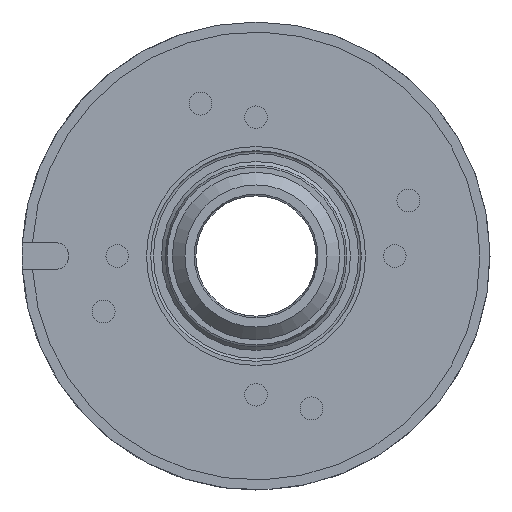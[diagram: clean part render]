
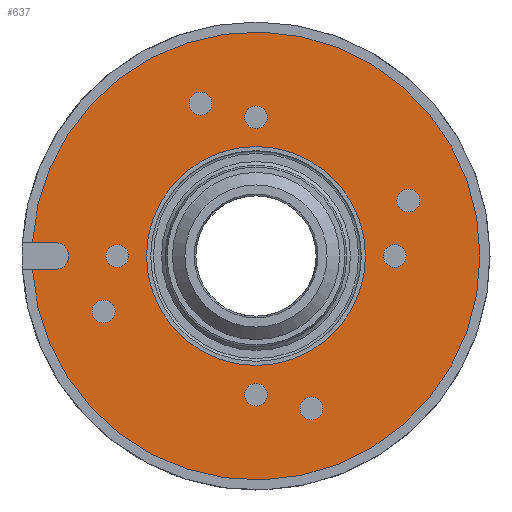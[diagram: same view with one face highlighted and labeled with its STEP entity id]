
A CAD part, left-side view. The second image highlights one B-rep face of the part: STEP entity #637.
In plain terms, the highlighted planar face has unit normal (-1, 0, 0).
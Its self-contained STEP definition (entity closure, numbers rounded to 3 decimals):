
#6 = AXIS2_PLACEMENT_3D ( 'NONE', #1297, #557, #997 ) ;
#10 = CIRCLE ( 'NONE', #1512, 3.4 ) ;
#11 = FACE_BOUND ( 'NONE', #1453, .T. ) ;
#14 = CARTESIAN_POINT ( 'NONE',  ( 0., 60., 0. ) ) ;
#23 = CARTESIAN_POINT ( 'NONE',  ( 0., -41.5, 0. ) ) ;
#39 = EDGE_LOOP ( 'NONE', ( #716 ) ) ;
#57 = CARTESIAN_POINT ( 'NONE',  ( 0., -45.575, 13.188 ) ) ;
#89 = DIRECTION ( 'NONE',  ( 0., -1., 0. ) ) ;
#109 = ORIENTED_EDGE ( 'NONE', *, *, #1296, .F. ) ;
#151 = EDGE_CURVE ( 'NONE', #593, #1372, #1218, .T. ) ;
#164 = FACE_BOUND ( 'NONE', #1796, .T. ) ;
#169 = CIRCLE ( 'NONE', #726, 3.4 ) ;
#187 = LINE ( 'NONE', #1273, #1756 ) ;
#213 = DIRECTION ( 'NONE',  ( 0., 0., -1. ) ) ;
#217 = DIRECTION ( 'NONE',  ( -1., 0., 0. ) ) ;
#290 = DIRECTION ( 'NONE',  ( -1., 0., 0. ) ) ;
#303 = AXIS2_PLACEMENT_3D ( 'NONE', #1871, #676, #1270 ) ;
#315 = FACE_BOUND ( 'NONE', #819, .T. ) ;
#331 = DIRECTION ( 'NONE',  ( 0., -1., 0. ) ) ;
#333 = CIRCLE ( 'NONE', #367, 4. ) ;
#340 = DIRECTION ( 'NONE',  ( 0., 0., 1. ) ) ;
#341 = DIRECTION ( 'NONE',  ( 0., 1., 0. ) ) ;
#367 = AXIS2_PLACEMENT_3D ( 'NONE', #14, #1408, #340 ) ;
#372 = CARTESIAN_POINT ( 'NONE',  ( 0., -13.188, -45.575 ) ) ;
#373 = EDGE_LOOP ( 'NONE', ( #851 ) ) ;
#382 = ORIENTED_EDGE ( 'NONE', *, *, #1398, .F. ) ;
#384 = DIRECTION ( 'NONE',  ( -1., 0., 0. ) ) ;
#393 = ORIENTED_EDGE ( 'NONE', *, *, #1727, .F. ) ;
#403 = DIRECTION ( 'NONE',  ( -1., 0., 0. ) ) ;
#405 = VERTEX_POINT ( 'NONE', #1458 ) ;
#485 = DIRECTION ( 'NONE',  ( 0., 0., -1. ) ) ;
#512 = VERTEX_POINT ( 'NONE', #1568 ) ;
#527 = CARTESIAN_POINT ( 'NONE',  ( 0., 0., -41.5 ) ) ;
#529 = CIRCLE ( 'NONE', #1155, 67. ) ;
#557 = DIRECTION ( 'NONE',  ( -1., 0., 0. ) ) ;
#593 = VERTEX_POINT ( 'NONE', #1061 ) ;
#605 = VERTEX_POINT ( 'NONE', #1373 ) ;
#622 = CARTESIAN_POINT ( 'NONE',  ( 0., 41.5, 3.4 ) ) ;
#630 = CIRCLE ( 'NONE', #1227, 3.4 ) ;
#631 = CIRCLE ( 'NONE', #1354, 3.4 ) ;
#636 = FACE_OUTER_BOUND ( 'NONE', #1033, .T. ) ;
#637 = ADVANCED_FACE ( 'NONE', ( #937, #800, #1674, #315, #928, #164, #781, #1385, #11, #636 ), #1442, .T. ) ;
#676 = DIRECTION ( 'NONE',  ( -1., 0., 0. ) ) ;
#690 = CARTESIAN_POINT ( 'NONE',  ( 0., -41.5, -3.4 ) ) ;
#716 = ORIENTED_EDGE ( 'NONE', *, *, #1210, .F. ) ;
#719 = CARTESIAN_POINT ( 'NONE',  ( 0., 16.588, 45.575 ) ) ;
#726 = AXIS2_PLACEMENT_3D ( 'NONE', #1496, #290, #1072 ) ;
#736 = EDGE_LOOP ( 'NONE', ( #1949 ) ) ;
#745 = EDGE_CURVE ( 'NONE', #512, #512, #1030, .T. ) ;
#769 = EDGE_LOOP ( 'NONE', ( #1482 ) ) ;
#781 = FACE_BOUND ( 'NONE', #39, .T. ) ;
#782 = CIRCLE ( 'NONE', #1572, 3.4 ) ;
#797 = CARTESIAN_POINT ( 'NONE',  ( 0., 60., -4. ) ) ;
#800 = FACE_BOUND ( 'NONE', #736, .T. ) ;
#816 = CARTESIAN_POINT ( 'NONE',  ( 0., 41.5, 0. ) ) ;
#818 = CARTESIAN_POINT ( 'NONE',  ( 0., 0., 32.75 ) ) ;
#819 = EDGE_LOOP ( 'NONE', ( #1758 ) ) ;
#825 = DIRECTION ( 'NONE',  ( 0., 1., 0. ) ) ;
#826 = DIRECTION ( 'NONE',  ( -1., 0., 0. ) ) ;
#838 = DIRECTION ( 'NONE',  ( 0., 0., 1. ) ) ;
#851 = ORIENTED_EDGE ( 'NONE', *, *, #1689, .F. ) ;
#857 = VERTEX_POINT ( 'NONE', #57 ) ;
#911 = AXIS2_PLACEMENT_3D ( 'NONE', #527, #217, #341 ) ;
#912 = EDGE_CURVE ( 'NONE', #1371, #1371, #630, .T. ) ;
#928 = FACE_BOUND ( 'NONE', #769, .T. ) ;
#937 = FACE_BOUND ( 'NONE', #373, .T. ) ;
#941 = DIRECTION ( 'NONE',  ( 0., 0., 1. ) ) ;
#957 = EDGE_CURVE ( 'NONE', #1221, #1221, #999, .T. ) ;
#971 = ORIENTED_EDGE ( 'NONE', *, *, #1051, .T. ) ;
#979 = VERTEX_POINT ( 'NONE', #690 ) ;
#997 = DIRECTION ( 'NONE',  ( 0., 0., 1. ) ) ;
#998 = AXIS2_PLACEMENT_3D ( 'NONE', #1571, #384, #838 ) ;
#999 = CIRCLE ( 'NONE', #911, 3.4 ) ;
#1010 = DIRECTION ( 'NONE',  ( 0., -1., 0. ) ) ;
#1028 = EDGE_CURVE ( 'NONE', #1128, #1128, #1724, .T. ) ;
#1030 = CIRCLE ( 'NONE', #1480, 3.4 ) ;
#1033 = EDGE_LOOP ( 'NONE', ( #1361, #971, #382, #109 ) ) ;
#1051 = EDGE_CURVE ( 'NONE', #593, #605, #529, .T. ) ;
#1061 = CARTESIAN_POINT ( 'NONE',  ( 0., 66.88, -4. ) ) ;
#1072 = DIRECTION ( 'NONE',  ( 0., 1., 0. ) ) ;
#1102 = EDGE_CURVE ( 'NONE', #1431, #1431, #782, .T. ) ;
#1128 = VERTEX_POINT ( 'NONE', #1424 ) ;
#1150 = DIRECTION ( 'NONE',  ( -1., 0., 0. ) ) ;
#1151 = EDGE_LOOP ( 'NONE', ( #1497 ) ) ;
#1155 = AXIS2_PLACEMENT_3D ( 'NONE', #1461, #1329, #1621 ) ;
#1210 = EDGE_CURVE ( 'NONE', #1875, #1875, #169, .T. ) ;
#1218 = LINE ( 'NONE', #797, #1377 ) ;
#1221 = VERTEX_POINT ( 'NONE', #1822 ) ;
#1227 = AXIS2_PLACEMENT_3D ( 'NONE', #816, #826, #941 ) ;
#1270 = DIRECTION ( 'NONE',  ( 0., 0., 1. ) ) ;
#1273 = CARTESIAN_POINT ( 'NONE',  ( 0., 60., 4. ) ) ;
#1296 = EDGE_CURVE ( 'NONE', #1372, #405, #333, .T. ) ;
#1297 = CARTESIAN_POINT ( 'NONE',  ( 0., 45.575, -16.588 ) ) ;
#1306 = EDGE_CURVE ( 'NONE', #979, #979, #631, .T. ) ;
#1308 = EDGE_LOOP ( 'NONE', ( #1940 ) ) ;
#1329 = DIRECTION ( 'NONE',  ( -1., 0., 0. ) ) ;
#1354 = AXIS2_PLACEMENT_3D ( 'NONE', #23, #1418, #485 ) ;
#1361 = ORIENTED_EDGE ( 'NONE', *, *, #151, .F. ) ;
#1371 = VERTEX_POINT ( 'NONE', #622 ) ;
#1372 = VERTEX_POINT ( 'NONE', #1429 ) ;
#1373 = CARTESIAN_POINT ( 'NONE',  ( 0., 66.88, 4. ) ) ;
#1377 = VECTOR ( 'NONE', #331, 1000. ) ;
#1385 = FACE_BOUND ( 'NONE', #1308, .T. ) ;
#1398 = EDGE_CURVE ( 'NONE', #405, #605, #187, .T. ) ;
#1408 = DIRECTION ( 'NONE',  ( -1., 0., 0. ) ) ;
#1418 = DIRECTION ( 'NONE',  ( -1., 0., 0. ) ) ;
#1424 = CARTESIAN_POINT ( 'NONE',  ( 0., 45.575, -13.188 ) ) ;
#1429 = CARTESIAN_POINT ( 'NONE',  ( 0., 60., -4. ) ) ;
#1431 = VERTEX_POINT ( 'NONE', #1737 ) ;
#1442 = PLANE ( 'NONE',  #998 ) ;
#1453 = EDGE_LOOP ( 'NONE', ( #1645 ) ) ;
#1458 = CARTESIAN_POINT ( 'NONE',  ( 0., 60., 4. ) ) ;
#1461 = CARTESIAN_POINT ( 'NONE',  ( 0., 0., 0. ) ) ;
#1480 = AXIS2_PLACEMENT_3D ( 'NONE', #1720, #1588, #89 ) ;
#1482 = ORIENTED_EDGE ( 'NONE', *, *, #1102, .F. ) ;
#1496 = CARTESIAN_POINT ( 'NONE',  ( 0., -16.588, -45.575 ) ) ;
#1497 = ORIENTED_EDGE ( 'NONE', *, *, #1306, .F. ) ;
#1512 = AXIS2_PLACEMENT_3D ( 'NONE', #1732, #1150, #213 ) ;
#1568 = CARTESIAN_POINT ( 'NONE',  ( 0., -3.4, 41.5 ) ) ;
#1571 = CARTESIAN_POINT ( 'NONE',  ( 0., -31.5, 0. ) ) ;
#1572 = AXIS2_PLACEMENT_3D ( 'NONE', #719, #403, #1010 ) ;
#1588 = DIRECTION ( 'NONE',  ( -1., 0., 0. ) ) ;
#1621 = DIRECTION ( 'NONE',  ( 0., 0., 1. ) ) ;
#1645 = ORIENTED_EDGE ( 'NONE', *, *, #912, .F. ) ;
#1674 = FACE_BOUND ( 'NONE', #1151, .T. ) ;
#1689 = EDGE_CURVE ( 'NONE', #1906, #1906, #1695, .T. ) ;
#1695 = CIRCLE ( 'NONE', #303, 32.75 ) ;
#1720 = CARTESIAN_POINT ( 'NONE',  ( 0., 0., 41.5 ) ) ;
#1724 = CIRCLE ( 'NONE', #6, 3.4 ) ;
#1727 = EDGE_CURVE ( 'NONE', #857, #857, #10, .T. ) ;
#1732 = CARTESIAN_POINT ( 'NONE',  ( 0., -45.575, 16.588 ) ) ;
#1737 = CARTESIAN_POINT ( 'NONE',  ( 0., 13.188, 45.575 ) ) ;
#1756 = VECTOR ( 'NONE', #825, 1000. ) ;
#1758 = ORIENTED_EDGE ( 'NONE', *, *, #957, .F. ) ;
#1796 = EDGE_LOOP ( 'NONE', ( #393 ) ) ;
#1822 = CARTESIAN_POINT ( 'NONE',  ( 0., 3.4, -41.5 ) ) ;
#1871 = CARTESIAN_POINT ( 'NONE',  ( 0., 0., 0. ) ) ;
#1875 = VERTEX_POINT ( 'NONE', #372 ) ;
#1906 = VERTEX_POINT ( 'NONE', #818 ) ;
#1940 = ORIENTED_EDGE ( 'NONE', *, *, #1028, .F. ) ;
#1949 = ORIENTED_EDGE ( 'NONE', *, *, #745, .F. ) ;
